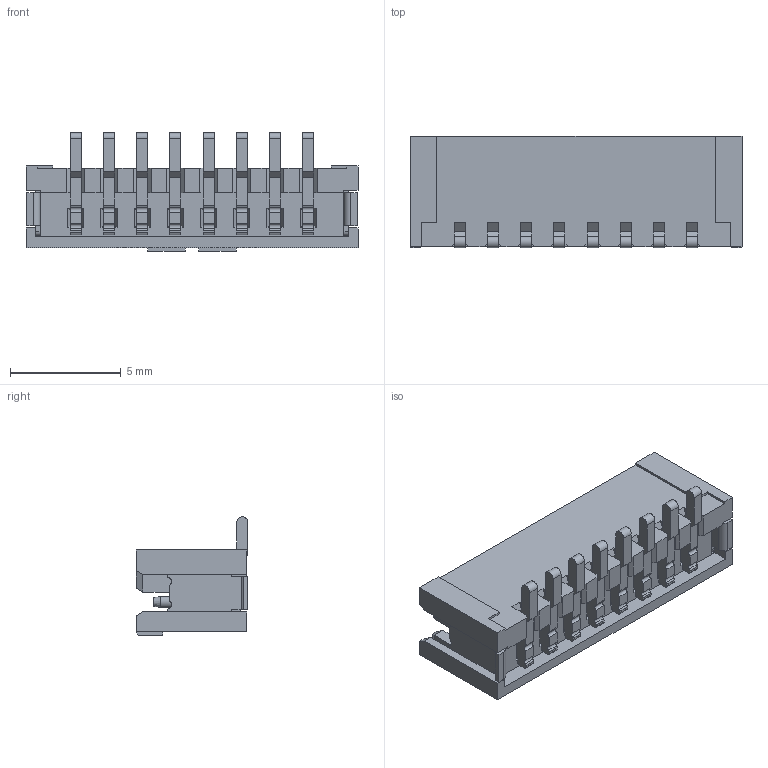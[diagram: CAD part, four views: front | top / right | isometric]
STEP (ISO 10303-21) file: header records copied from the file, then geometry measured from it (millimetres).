
FILE_DESCRIPTION((''),'2;1');
FILE_NAME('S-50288-008XX-XXX','2016-04-08T',('d20783'),(''),'PRO/ENGINEER BY PARAMETRIC TECHNOLOGY CORPORATION, 2009360','PRO/ENGINEER BY PARAMETRIC TECHNOLOGY CORPORATION, 2009360','');
FILE_SCHEMA(('CONFIG_CONTROL_DESIGN'));
Length unit declared in the file: millimetre
Products named in the file (1): S-50288-008XX-XXX
Bounding box: 15 x 5.05 x 5.35 mm (x, y, z)
Volume: 132.4 mm3; surface area: 556.7 mm2
Topology: 1 solids, 1 shells, 536 faces, 1680 edges, 1116 vertices
Faces by surface type: plane 380, cylinder 108, bspline 32, cone 16
Entity records: 20509 total; most frequent: CARTESIAN_POINT 5531, ORIENTED_EDGE 3280, DIRECTION 2900, EDGE_CURVE 1640, VECTOR 1278, LINE 1278, VERTEX_POINT 1076, AXIS2_PLACEMENT_3D 811
